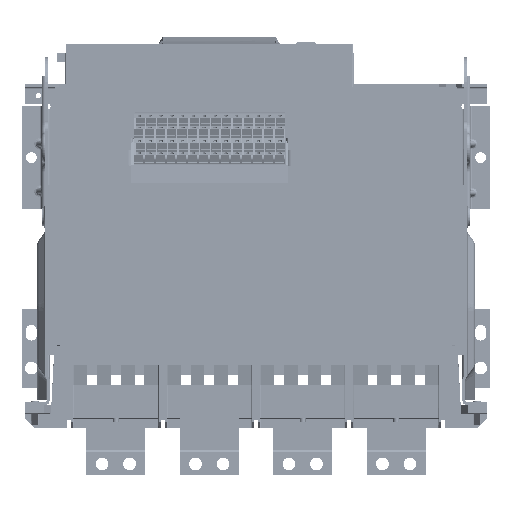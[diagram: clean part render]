
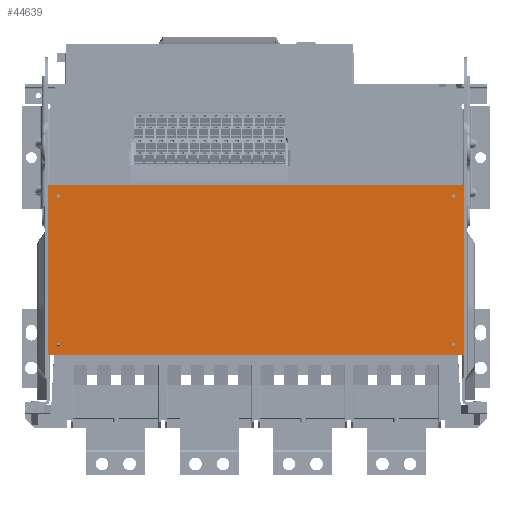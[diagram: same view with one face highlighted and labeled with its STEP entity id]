
A CAD part, front view. The second image highlights one B-rep face of the part: STEP entity #44639.
In plain terms, the highlighted planar face has unit normal (0, -1, 0).
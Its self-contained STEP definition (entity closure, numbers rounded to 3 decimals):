
#42096=DIRECTION('',(0.,0.,1.));
#42097=VECTOR('',#42096,173.);
#42098=CARTESIAN_POINT('',(-212.,0.,-86.5));
#42099=LINE('',#42098,#42097);
#42103=DIRECTION('',(1.,0.,0.));
#42104=VECTOR('',#42103,424.);
#42105=CARTESIAN_POINT('',(-212.,0.,86.5));
#42106=LINE('',#42105,#42104);
#42110=DIRECTION('',(0.,0.,-1.));
#42111=VECTOR('',#42110,173.);
#42112=CARTESIAN_POINT('',(212.,0.,86.5));
#42113=LINE('',#42112,#42111);
#42117=DIRECTION('',(-1.,0.,0.));
#42118=VECTOR('',#42117,424.);
#42119=CARTESIAN_POINT('',(212.,0.,-86.5));
#42120=LINE('',#42119,#42118);
#42124=CARTESIAN_POINT('',(-201.,0.,75.5));
#42125=DIRECTION('',(0.,-1.,0.));
#42126=DIRECTION('',(1.,0.,0.));
#42127=AXIS2_PLACEMENT_3D('',#42124,#42125,#42126);
#42132=CARTESIAN_POINT('',(-201.,0.,75.5));
#42133=DIRECTION('',(0.,-1.,0.));
#42134=DIRECTION('',(-1.,0.,0.));
#42135=AXIS2_PLACEMENT_3D('',#42132,#42133,#42134);
#42140=CARTESIAN_POINT('',(201.,0.,75.5));
#42141=DIRECTION('',(0.,-1.,0.));
#42142=DIRECTION('',(1.,0.,0.));
#42143=AXIS2_PLACEMENT_3D('',#42140,#42141,#42142);
#42148=CARTESIAN_POINT('',(201.,0.,75.5));
#42149=DIRECTION('',(0.,-1.,0.));
#42150=DIRECTION('',(-1.,0.,0.));
#42151=AXIS2_PLACEMENT_3D('',#42148,#42149,#42150);
#42156=CARTESIAN_POINT('',(201.,0.,-75.5));
#42157=DIRECTION('',(0.,-1.,0.));
#42158=DIRECTION('',(1.,0.,0.));
#42159=AXIS2_PLACEMENT_3D('',#42156,#42157,#42158);
#42164=CARTESIAN_POINT('',(201.,0.,-75.5));
#42165=DIRECTION('',(0.,-1.,0.));
#42166=DIRECTION('',(-1.,0.,0.));
#42167=AXIS2_PLACEMENT_3D('',#42164,#42165,#42166);
#42172=CARTESIAN_POINT('',(-201.,0.,-75.5));
#42173=DIRECTION('',(0.,-1.,0.));
#42174=DIRECTION('',(1.,0.,0.));
#42175=AXIS2_PLACEMENT_3D('',#42172,#42173,#42174);
#42180=CARTESIAN_POINT('',(-201.,0.,-75.5));
#42181=DIRECTION('',(0.,-1.,0.));
#42182=DIRECTION('',(-1.,0.,0.));
#42183=AXIS2_PLACEMENT_3D('',#42180,#42181,#42182);
#44208=CARTESIAN_POINT('',(-212.,0.,-86.5));
#44209=CARTESIAN_POINT('',(-212.,0.,86.5));
#44210=VERTEX_POINT('',#44208);
#44211=VERTEX_POINT('',#44209);
#44212=CARTESIAN_POINT('',(212.,0.,86.5));
#44213=VERTEX_POINT('',#44212);
#44214=CARTESIAN_POINT('',(212.,0.,-86.5));
#44215=VERTEX_POINT('',#44214);
#44408=CARTESIAN_POINT('',(-199.25,0.,75.5));
#44409=CARTESIAN_POINT('',(-202.75,0.,75.5));
#44410=VERTEX_POINT('',#44408);
#44411=VERTEX_POINT('',#44409);
#44412=CARTESIAN_POINT('',(202.75,0.,75.5));
#44413=CARTESIAN_POINT('',(199.25,0.,75.5));
#44414=VERTEX_POINT('',#44412);
#44415=VERTEX_POINT('',#44413);
#44416=CARTESIAN_POINT('',(202.75,0.,-75.5));
#44417=CARTESIAN_POINT('',(199.25,0.,-75.5));
#44418=VERTEX_POINT('',#44416);
#44419=VERTEX_POINT('',#44417);
#44420=CARTESIAN_POINT('',(-199.25,0.,-75.5));
#44421=CARTESIAN_POINT('',(-202.75,0.,-75.5));
#44422=VERTEX_POINT('',#44420);
#44423=VERTEX_POINT('',#44421);
#44600=CARTESIAN_POINT('',(0.,0.,0.));
#44601=DIRECTION('',(0.,1.,0.));
#44602=DIRECTION('',(1.,0.,0.));
#44603=AXIS2_PLACEMENT_3D('',#44600,#44601,#44602);
#44604=PLANE('',#44603);
#44606=ORIENTED_EDGE('',*,*,#44605,.T.);
#44608=ORIENTED_EDGE('',*,*,#44607,.T.);
#44610=ORIENTED_EDGE('',*,*,#44609,.T.);
#44612=ORIENTED_EDGE('',*,*,#44611,.T.);
#44613=EDGE_LOOP('',(#44606,#44608,#44610,#44612));
#44614=FACE_OUTER_BOUND('',#44613,.F.);
#44616=ORIENTED_EDGE('',*,*,#44615,.T.);
#44618=ORIENTED_EDGE('',*,*,#44617,.T.);
#44619=EDGE_LOOP('',(#44616,#44618));
#44620=FACE_BOUND('',#44619,.F.);
#44622=ORIENTED_EDGE('',*,*,#44621,.T.);
#44624=ORIENTED_EDGE('',*,*,#44623,.T.);
#44625=EDGE_LOOP('',(#44622,#44624));
#44626=FACE_BOUND('',#44625,.F.);
#44628=ORIENTED_EDGE('',*,*,#44627,.T.);
#44630=ORIENTED_EDGE('',*,*,#44629,.T.);
#44631=EDGE_LOOP('',(#44628,#44630));
#44632=FACE_BOUND('',#44631,.F.);
#44634=ORIENTED_EDGE('',*,*,#44633,.T.);
#44636=ORIENTED_EDGE('',*,*,#44635,.T.);
#44637=EDGE_LOOP('',(#44634,#44636));
#44638=FACE_BOUND('',#44637,.F.);
#44639=ADVANCED_FACE('',(#44614,#44620,#44626,#44632,#44638),#44604,.F.);
#42128=CIRCLE('',#42127,1.75);
#42136=CIRCLE('',#42135,1.75);
#42144=CIRCLE('',#42143,1.75);
#42152=CIRCLE('',#42151,1.75);
#42160=CIRCLE('',#42159,1.75);
#42168=CIRCLE('',#42167,1.75);
#42176=CIRCLE('',#42175,1.75);
#42184=CIRCLE('',#42183,1.75);
#44605=EDGE_CURVE('',#44210,#44211,#42099,.T.);
#44607=EDGE_CURVE('',#44211,#44213,#42106,.T.);
#44609=EDGE_CURVE('',#44213,#44215,#42113,.T.);
#44611=EDGE_CURVE('',#44215,#44210,#42120,.T.);
#44615=EDGE_CURVE('',#44410,#44411,#42128,.T.);
#44617=EDGE_CURVE('',#44411,#44410,#42136,.T.);
#44621=EDGE_CURVE('',#44414,#44415,#42144,.T.);
#44623=EDGE_CURVE('',#44415,#44414,#42152,.T.);
#44627=EDGE_CURVE('',#44418,#44419,#42160,.T.);
#44629=EDGE_CURVE('',#44419,#44418,#42168,.T.);
#44633=EDGE_CURVE('',#44422,#44423,#42176,.T.);
#44635=EDGE_CURVE('',#44423,#44422,#42184,.T.);
